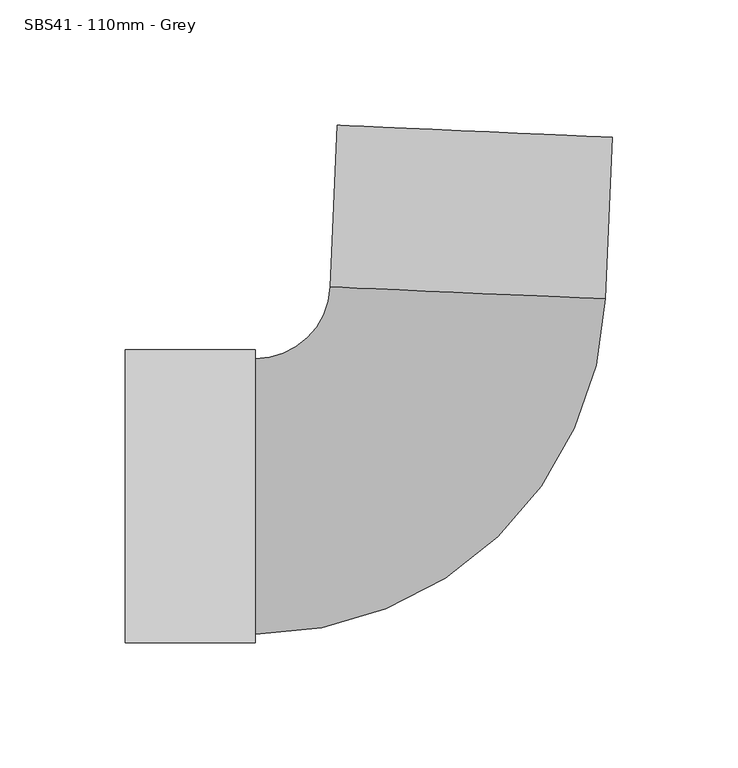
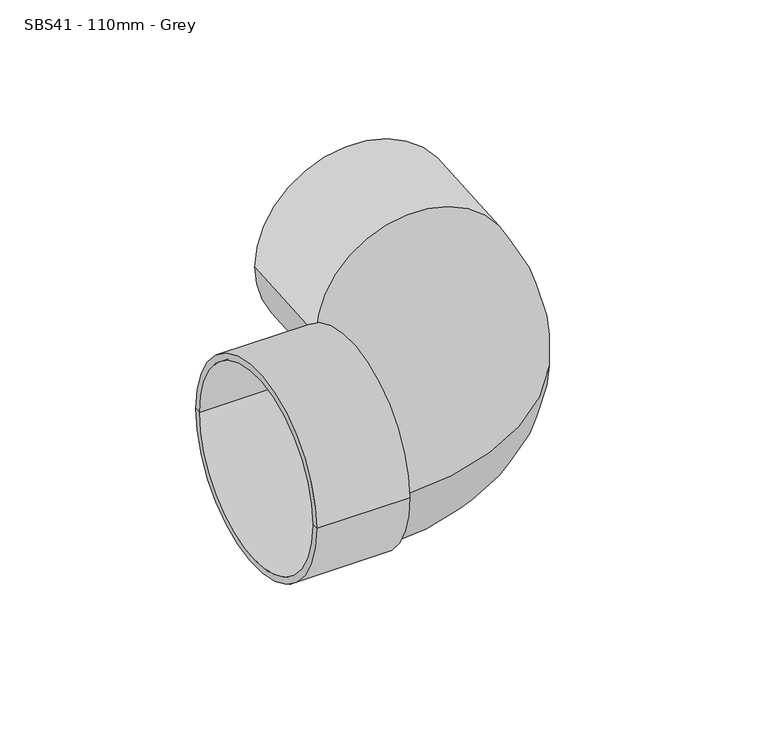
"""IFC4 building model written with IfcOpenShell, lengths in millimetres: pipe fitting geometry, MarleyPlumbingAndDrainage_PipeFitting_ShortRadiusBend87.5 : SBS41 - 110mm - Grey."""

from ifc_helpers import new_model, si_unit, point, frame, origin, place, context, project, spatial, polyline, circle_curve, ellipse_curve, trimmed, source, transform, mapped, element, save
from ifc_brep_helpers import plane_surface, cylinder_surface, revolved_surface, advanced_brep


def sbs41_110mm_grey_8f80f610(model_context):
    return source(origin(), model_context, "Body", "AdvancedBrep", [
        advanced_brep(
        [(-96.1365862, -55.0, 0.0), (-96.1365862, 55.0, 0.0), (-66.1651395, 83.6914184, 0.0), (43.7301649, 78.8932858, 0.0), (46.5523392, 143.5317057, 0.0), (-63.3429652, 148.3298383, 0.0)],
        [
            (0, 1, circle_curve(frame((-96.1365862, 0.0, 0.0), z_axis=(-1.0, 0.0, 0.0), x_axis=(0.0, 1.0, 0.0)), 55.0)),
            (1, 0, circle_curve(frame((-96.1365862, 0.0, 0.0), z_axis=(-1.0, 0.0, 0.0), x_axis=(0.0, 1.0, 0.0)), 55.0)),
            (2, 1, circle_curve(frame((-96.1365862, 85.0, 0.0), z_axis=(0.0, 0.0, -1.0), x_axis=(0.0, -1.0, 0.0)), 30.0)),
            (0, 3, circle_curve(frame((-96.1365862, 85.0, 0.0), z_axis=(0.0, 0.0, 1.0), x_axis=(0.0, -1.0, 0.0)), 140.0)),
            (3, 2, circle_curve(frame((-11.2174873, 81.2923521, 0.0), z_axis=(-0.04361938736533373, -0.9990482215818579, 0.0), x_axis=(-0.9990482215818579, 0.04361938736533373, 0.0)), 55.0)),
            (2, 3, circle_curve(frame((-11.2174873, 81.2923521, 0.0), z_axis=(-0.0436193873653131, -0.9990482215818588, 0.0), x_axis=(-0.9990482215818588, 0.0436193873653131, 0.0)), 55.0)),
            (4, 5, circle_curve(frame((-8.395313, 145.930772, 0.0), z_axis=(0.043619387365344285, 0.9990482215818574, 0.0), x_axis=(-0.9990482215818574, 0.043619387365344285, 0.0)), 55.0)),
            (5, 4, circle_curve(frame((-8.395313, 145.930772, 0.0), z_axis=(0.043619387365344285, 0.9990482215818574, 0.0), x_axis=(-0.9990482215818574, 0.043619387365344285, 0.0)), 55.0)),
            (3, 4),
            (5, 2),
        ],
        [
            plane_surface(frame((-96.1365862, 0.0, 0.0), z_axis=(-1.0, 0.0, 0.0), x_axis=(0.0, 0.0, 1.0))),
            revolved_surface(trimmed(ellipse_curve(frame((-96.1365862, 0.0, 0.0), z_axis=(-1.0, 0.0, 0.0), x_axis=(0.0, 1.0, 0.0)), 55.0, 55.0), [point((-96.1365862, -55.0, 0.0))], [point((-96.1365862, 55.0, 0.0))], True, "CARTESIAN"), (-96.1365862, 85.0, 0.0), (0.0, 0.0, 1.0)),
            revolved_surface(trimmed(ellipse_curve(frame((-96.1365862, 0.0, 0.0), z_axis=(-1.0, 0.0, 0.0), x_axis=(0.0, 1.0, 0.0)), 55.0, 55.0), [point((-96.1365862, 55.0, 0.0))], [point((-96.1365862, -55.0, 0.0))], True, "CARTESIAN"), (-96.1365862, 85.0, 0.0), (0.0, 0.0, 1.0)),
            plane_surface(frame((-8.395313, 145.930772, 0.0), z_axis=(0.04361938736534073, 0.9990482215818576, 0.0), x_axis=(0.0, 0.0, 1.0))),
            cylinder_surface(frame((-11.2174873, 81.2923521, 0.0), z_axis=(-0.043619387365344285, -0.9990482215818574, 0.0), x_axis=(-0.9990482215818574, 0.043619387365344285, 0.0)), 55.0),
        ],
        [
            (0, [[1, 2]]),
            (1, [[3, -1, 4, 5]]),
            (2, [[-4, -2, -3, 6]]),
            (3, [[7, 8]]),
            (4, [[-5, 9, -8, 10]]),
            (4, [[-6, -10, -7, -9]]),
        ],
    ),
        advanced_brep(
        [(-148.1365862, 55.0, 0.0), (-148.1365862, -55.0, 0.0), (-96.1365862, -55.0, 0.0), (-96.1365862, 55.0, 0.0), (-148.1365862, 58.5, 0.0), (-148.1365862, -58.5, 0.0), (-96.1365862, 58.5, 0.0), (-96.1365862, -58.5, 0.0)],
        [
            (0, 1, circle_curve(frame((-148.1365862, 0.0, 0.0), z_axis=(-1.0, 0.0, 0.0), x_axis=(0.0, -1.0, 0.0)), 55.0)),
            (1, 2),
            (2, 3, circle_curve(frame((-96.1365862, 0.0, 0.0), z_axis=(1.0, 0.0, 0.0), x_axis=(0.0, -1.0, 0.0)), 55.0)),
            (3, 0),
            (1, 0, circle_curve(frame((-148.1365862, 0.0, 0.0), z_axis=(-1.0, 0.0, 0.0), x_axis=(0.0, -1.0, 0.0)), 55.0)),
            (3, 2, circle_curve(frame((-96.1365862, 0.0, 0.0), z_axis=(1.0, 0.0, 0.0), x_axis=(0.0, -1.0, 0.0)), 55.0)),
            (4, 5, circle_curve(frame((-148.1365862, 0.0, 0.0), z_axis=(-1.0, 0.0, 0.0), x_axis=(0.0, -1.0, 0.0)), 58.5)),
            (5, 1),
            (0, 4),
            (5, 4, circle_curve(frame((-148.1365862, 0.0, 0.0), z_axis=(-1.0, 0.0, 0.0), x_axis=(0.0, -1.0, 0.0)), 58.5)),
            (6, 7, circle_curve(frame((-96.1365862, 0.0, 0.0), z_axis=(-1.0, 0.0, 0.0), x_axis=(0.0, -1.0, 0.0)), 58.5)),
            (7, 5),
            (4, 6),
            (7, 6, circle_curve(frame((-96.1365862, 0.0, 0.0), z_axis=(-1.0, 0.0, 0.0), x_axis=(0.0, -1.0, 0.0)), 58.5)),
            (2, 7),
            (6, 3),
        ],
        [
            revolved_surface(polyline([(-96.1365862, -55.0, 0.0), (-148.1365862, -55.0, 0.0)]), (-107.6745064, 0.0, 0.0), (1.0, 0.0, 0.0)),
            plane_surface(frame((-148.1365862, 0.0, 0.0), z_axis=(-1.0, 0.0, 0.0), x_axis=(0.0, -1.0, 0.0))),
            cylinder_surface(frame((-107.6745064, 0.0, 0.0), z_axis=(1.0, 0.0, 0.0), x_axis=(0.0, -1.0, 0.0)), 58.5),
            plane_surface(frame((-96.1365862, 0.0, 0.0), z_axis=(1.0, 0.0, 0.0), x_axis=(0.0, -1.0, 0.0))),
        ],
        [
            (0, [[1, 2, 3, 4]]),
            (0, [[5, -4, 6, -2]]),
            (1, [[7, 8, -1, 9]]),
            (1, [[10, -9, -5, -8]]),
            (2, [[11, 12, -7, 13]]),
            (2, [[14, -13, -10, -12]]),
            (3, [[-3, 15, -11, 16]]),
            (3, [[-6, -16, -14, -15]]),
        ],
    ),
    ])


if __name__ == "__main__":
    model = new_model("IFC4")
    model_context = context("Model", 3, world=origin())
    ifc_project = project(units=[si_unit("LENGTHUNIT", "METRE", prefix="MILLI")], contexts=[model_context])
    site = spatial("IfcSite", under=ifc_project)
    building = spatial("IfcBuilding", under=site)
    placement = place(None, origin())
    sbs41_110mm_grey_shape = sbs41_110mm_grey_8f80f610(model_context)
    element("IfcPipeFitting", 1, ObjectType="MarleyPlumbingAndDrainage_PipeFitting_ShortRadiusBend87.5 : SBS41 - 110mm - Grey", at=placement, inside=building, context=model_context, shape_type="MappedRepresentation", body=[
        mapped(sbs41_110mm_grey_shape, transform((0.0, 0.0, 0.0), x_axis=(1.0, 0.0, 0.0), y_axis=(0.0, 1.0, 0.0), z_axis=(0.0, 0.0, 1.0))),
    ])
    save(model, "model.ifc")
